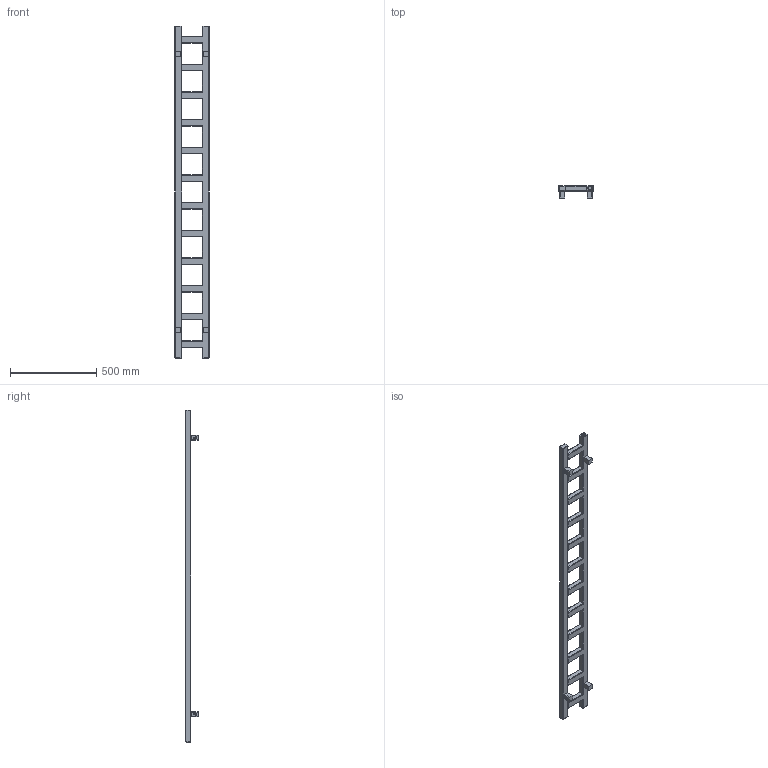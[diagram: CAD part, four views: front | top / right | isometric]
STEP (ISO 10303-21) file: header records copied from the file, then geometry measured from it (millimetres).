
FILE_DESCRIPTION((''),'2;1');
FILE_NAME('Z:\R\G\P\RGP102 - Grzejnik Easy 2012\Work\Inventor\Marketing\Modele AutoCAD\EAS-200-1920 S5.stp','2012-07-02T08:14:10',('KurKa'),(''),'Autodesk Inventor 2012','Autodesk Inventor 2012','');
FILE_SCHEMA(('AUTOMOTIVE_DESIGN { 1 0 10303 214 1 1 1 1 }'));
Length unit declared in the file: millimetre
Products named in the file (3): EAS-200-1920 S5; MMT42_marketing
Assembly tree (5 placements, depth 2):
  EAS-200-1920 S5
    EAS-200-1920 S5
    MMT42_marketing  x4
Bounding box: 200 x 72 x 1920 mm (x, y, z)
Volume: 6429759.3 mm3; surface area: 727758.4 mm2
Topology: 5 solids, 5 shells, 382 faces, 914 edges, 531 vertices
Faces by surface type: plane 187, cylinder 146, cone 27, sphere 14, torus 8
Full cylindrical faces by diameter (mm): 4.509 x4, 12 x4, 18.631 x3
Entity records: 6920 total; most frequent: DIRECTION 1255, CARTESIAN_POINT 1168, ORIENTED_EDGE 1126, EDGE_CURVE 563, AXIS2_PLACEMENT_3D 441, VECTOR 373, LINE 373, VERTEX_POINT 314
